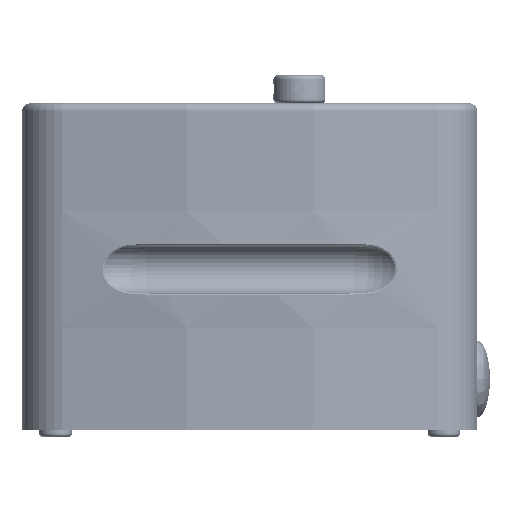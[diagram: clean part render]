
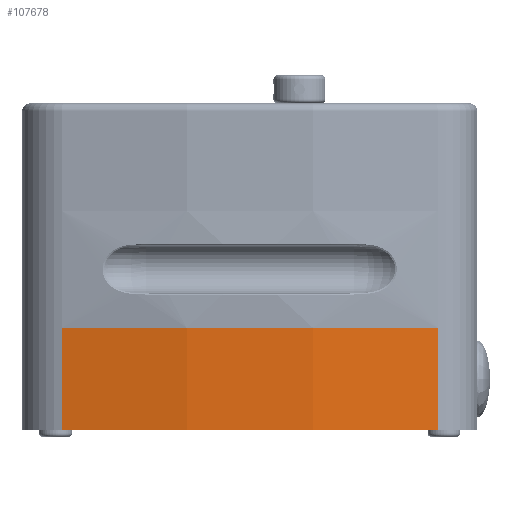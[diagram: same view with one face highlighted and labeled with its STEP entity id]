
A CAD part, left-side view. The second image highlights one B-rep face of the part: STEP entity #107678.
In plain terms, the highlighted cylindrical face has radius 330.2 mm (diameter 660.4 mm), a partial arc.
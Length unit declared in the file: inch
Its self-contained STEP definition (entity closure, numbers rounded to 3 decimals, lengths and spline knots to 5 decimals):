
#12096=FACE_OUTER_BOUND('',#18386,.T.);
#18386=EDGE_LOOP('',(#86335,#86336,#86337,#86338));
#25948=LINE('',#247594,#34451);
#25949=LINE('',#247596,#34452);
#34451=VECTOR('',#133948,1.);
#34452=VECTOR('',#133951,1.);
#40027=CIRCLE('',#115353,13.);
#40059=CIRCLE('',#115389,13.);
#47269=VERTEX_POINT('',#247170);
#47270=VERTEX_POINT('',#247172);
#47312=VERTEX_POINT('',#247265);
#47313=VERTEX_POINT('',#247267);
#61010=EDGE_CURVE('',#47269,#47270,#40027,.T.);
#61058=EDGE_CURVE('',#47312,#47313,#40059,.T.);
#61217=EDGE_CURVE('',#47270,#47312,#25948,.T.);
#61218=EDGE_CURVE('',#47313,#47269,#25949,.T.);
#86335=ORIENTED_EDGE('',*,*,#61058,.F.);
#86336=ORIENTED_EDGE('',*,*,#61217,.F.);
#86337=ORIENTED_EDGE('',*,*,#61010,.F.);
#86338=ORIENTED_EDGE('',*,*,#61218,.F.);
#103243=CYLINDRICAL_SURFACE('',#115524,13.);
#107678=ADVANCED_FACE('',(#12096),#103243,.T.);
#115353=AXIS2_PLACEMENT_3D('',#247173,#133494,#133495);
#115389=AXIS2_PLACEMENT_3D('',#247268,#133582,#133583);
#115524=AXIS2_PLACEMENT_3D('',#247595,#133949,#133950);
#133494=DIRECTION('center_axis',(0.,0.,
-1.));
#133495=DIRECTION('ref_axis',(-0.951,-0.308,0.));
#133582=DIRECTION('center_axis',(0.,0.,
1.));
#133583=DIRECTION('ref_axis',(-0.951,-0.308,0.));
#133948=DIRECTION('',(0.,0.,1.));
#133949=DIRECTION('center_axis',(0.,0.,
-1.));
#133950=DIRECTION('ref_axis',(-0.951,-0.308,0.));
#133951=DIRECTION('',(0.,0.,-1.));
#247170=CARTESIAN_POINT('',(-0.90507,30.80231,5.4825));
#247172=CARTESIAN_POINT('',(-0.90507,36.58127,5.4825));
#247173=CARTESIAN_POINT('Origin',(11.76974,33.69179,5.4825));
#247265=CARTESIAN_POINT('',(-0.90507,36.58127,7.0575));
#247267=CARTESIAN_POINT('',(-0.90507,30.80231,7.0575));
#247268=CARTESIAN_POINT('Origin',(11.76974,33.69179,7.0575));
#247594=CARTESIAN_POINT('',(-0.90507,36.58127,5.1575));
#247595=CARTESIAN_POINT('Origin',(11.76974,33.69179,5.1575));
#247596=CARTESIAN_POINT('',(-0.90507,30.80231,5.1575));
